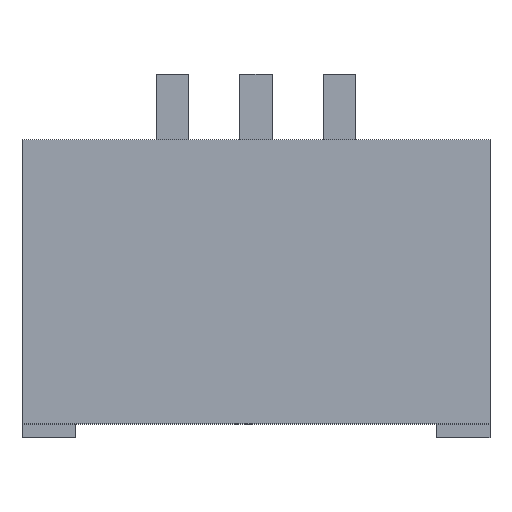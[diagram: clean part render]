
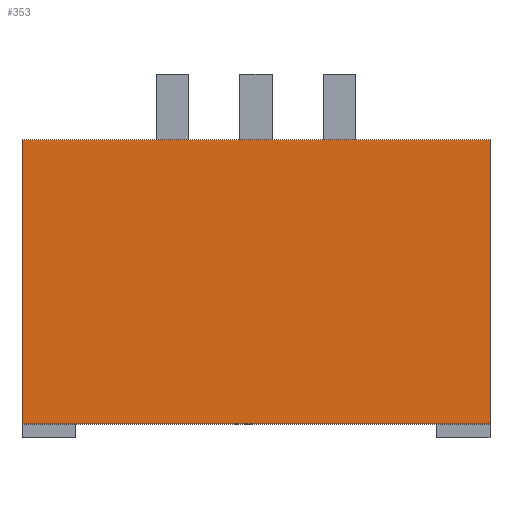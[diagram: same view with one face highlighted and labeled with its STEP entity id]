
A CAD part, top view. The second image highlights one B-rep face of the part: STEP entity #353.
In plain terms, the highlighted planar face has unit normal (0, 0, 1).
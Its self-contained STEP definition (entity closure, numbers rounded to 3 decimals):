
#39 = VERTEX_POINT('',#40);
#40 = CARTESIAN_POINT('',(-3.5,2.025,4.2));
#47 = PLANE('',#48);
#48 = AXIS2_PLACEMENT_3D('',#49,#50,#51);
#49 = CARTESIAN_POINT('',(-3.5,2.025,0.));
#50 = DIRECTION('',(0.,1.,0.));
#51 = DIRECTION('',(1.,0.,0.));
#59 = PLANE('',#60);
#60 = AXIS2_PLACEMENT_3D('',#61,#62,#63);
#61 = CARTESIAN_POINT('',(-3.5,-2.225,0.));
#62 = DIRECTION('',(-1.,0.,0.));
#63 = DIRECTION('',(0.,1.,0.));
#71 = EDGE_CURVE('',#39,#72,#74,.T.);
#72 = VERTEX_POINT('',#73);
#73 = CARTESIAN_POINT('',(3.5,2.025,4.2));
#74 = SURFACE_CURVE('',#75,(#79,#86),.PCURVE_S1.);
#75 = LINE('',#76,#77);
#76 = CARTESIAN_POINT('',(-3.5,2.025,4.2));
#77 = VECTOR('',#78,1.);
#78 = DIRECTION('',(1.,0.,0.));
#79 = PCURVE('',#47,#80);
#80 = DEFINITIONAL_REPRESENTATION('',(#81),#85);
#81 = LINE('',#82,#83);
#82 = CARTESIAN_POINT('',(0.,-4.2));
#83 = VECTOR('',#84,1.);
#84 = DIRECTION('',(1.,0.));
#85 = ( GEOMETRIC_REPRESENTATION_CONTEXT(2) 
PARAMETRIC_REPRESENTATION_CONTEXT() REPRESENTATION_CONTEXT('2D SPACE',''
  ) );
#86 = PCURVE('',#87,#92);
#87 = PLANE('',#88);
#88 = AXIS2_PLACEMENT_3D('',#89,#90,#91);
#89 = CARTESIAN_POINT('',(0.,-0.1,4.2));
#90 = DIRECTION('',(-0.,-0.,-1.));
#91 = DIRECTION('',(-1.,0.,0.));
#92 = DEFINITIONAL_REPRESENTATION('',(#93),#97);
#93 = LINE('',#94,#95);
#94 = CARTESIAN_POINT('',(3.5,2.125));
#95 = VECTOR('',#96,1.);
#96 = DIRECTION('',(-1.,0.));
#97 = ( GEOMETRIC_REPRESENTATION_CONTEXT(2) 
PARAMETRIC_REPRESENTATION_CONTEXT() REPRESENTATION_CONTEXT('2D SPACE',''
  ) );
#115 = PLANE('',#116);
#116 = AXIS2_PLACEMENT_3D('',#117,#118,#119);
#117 = CARTESIAN_POINT('',(3.5,2.025,0.));
#118 = DIRECTION('',(1.,0.,-0.));
#119 = DIRECTION('',(0.,-1.,0.));
#157 = EDGE_CURVE('',#72,#158,#160,.T.);
#158 = VERTEX_POINT('',#159);
#159 = CARTESIAN_POINT('',(3.5,-2.225,4.2));
#160 = SURFACE_CURVE('',#161,(#165,#172),.PCURVE_S1.);
#161 = LINE('',#162,#163);
#162 = CARTESIAN_POINT('',(3.5,2.025,4.2));
#163 = VECTOR('',#164,1.);
#164 = DIRECTION('',(0.,-1.,0.));
#165 = PCURVE('',#115,#166);
#166 = DEFINITIONAL_REPRESENTATION('',(#167),#171);
#167 = LINE('',#168,#169);
#168 = CARTESIAN_POINT('',(0.,-4.2));
#169 = VECTOR('',#170,1.);
#170 = DIRECTION('',(1.,0.));
#171 = ( GEOMETRIC_REPRESENTATION_CONTEXT(2) 
PARAMETRIC_REPRESENTATION_CONTEXT() REPRESENTATION_CONTEXT('2D SPACE',''
  ) );
#172 = PCURVE('',#87,#173);
#173 = DEFINITIONAL_REPRESENTATION('',(#174),#178);
#174 = LINE('',#175,#176);
#175 = CARTESIAN_POINT('',(-3.5,2.125));
#176 = VECTOR('',#177,1.);
#177 = DIRECTION('',(0.,-1.));
#178 = ( GEOMETRIC_REPRESENTATION_CONTEXT(2) 
PARAMETRIC_REPRESENTATION_CONTEXT() REPRESENTATION_CONTEXT('2D SPACE',''
  ) );
#196 = PLANE('',#197);
#197 = AXIS2_PLACEMENT_3D('',#198,#199,#200);
#198 = CARTESIAN_POINT('',(3.5,-2.225,0.));
#199 = DIRECTION('',(0.,-1.,0.));
#200 = DIRECTION('',(-1.,0.,0.));
#233 = EDGE_CURVE('',#158,#234,#236,.T.);
#234 = VERTEX_POINT('',#235);
#235 = CARTESIAN_POINT('',(-3.5,-2.225,4.2));
#236 = SURFACE_CURVE('',#237,(#241,#248),.PCURVE_S1.);
#237 = LINE('',#238,#239);
#238 = CARTESIAN_POINT('',(3.5,-2.225,4.2));
#239 = VECTOR('',#240,1.);
#240 = DIRECTION('',(-1.,0.,0.));
#241 = PCURVE('',#196,#242);
#242 = DEFINITIONAL_REPRESENTATION('',(#243),#247);
#243 = LINE('',#244,#245);
#244 = CARTESIAN_POINT('',(0.,-4.2));
#245 = VECTOR('',#246,1.);
#246 = DIRECTION('',(1.,0.));
#247 = ( GEOMETRIC_REPRESENTATION_CONTEXT(2) 
PARAMETRIC_REPRESENTATION_CONTEXT() REPRESENTATION_CONTEXT('2D SPACE',''
  ) );
#248 = PCURVE('',#87,#249);
#249 = DEFINITIONAL_REPRESENTATION('',(#250),#254);
#250 = LINE('',#251,#252);
#251 = CARTESIAN_POINT('',(-3.5,-2.125));
#252 = VECTOR('',#253,1.);
#253 = DIRECTION('',(1.,0.));
#254 = ( GEOMETRIC_REPRESENTATION_CONTEXT(2) 
PARAMETRIC_REPRESENTATION_CONTEXT() REPRESENTATION_CONTEXT('2D SPACE',''
  ) );
#304 = EDGE_CURVE('',#234,#39,#305,.T.);
#305 = SURFACE_CURVE('',#306,(#310,#317),.PCURVE_S1.);
#306 = LINE('',#307,#308);
#307 = CARTESIAN_POINT('',(-3.5,-2.225,4.2));
#308 = VECTOR('',#309,1.);
#309 = DIRECTION('',(0.,1.,0.));
#310 = PCURVE('',#59,#311);
#311 = DEFINITIONAL_REPRESENTATION('',(#312),#316);
#312 = LINE('',#313,#314);
#313 = CARTESIAN_POINT('',(0.,-4.2));
#314 = VECTOR('',#315,1.);
#315 = DIRECTION('',(1.,0.));
#316 = ( GEOMETRIC_REPRESENTATION_CONTEXT(2) 
PARAMETRIC_REPRESENTATION_CONTEXT() REPRESENTATION_CONTEXT('2D SPACE',''
  ) );
#317 = PCURVE('',#87,#318);
#318 = DEFINITIONAL_REPRESENTATION('',(#319),#323);
#319 = LINE('',#320,#321);
#320 = CARTESIAN_POINT('',(3.5,-2.125));
#321 = VECTOR('',#322,1.);
#322 = DIRECTION('',(0.,1.));
#323 = ( GEOMETRIC_REPRESENTATION_CONTEXT(2) 
PARAMETRIC_REPRESENTATION_CONTEXT() REPRESENTATION_CONTEXT('2D SPACE',''
  ) );
#353 = ADVANCED_FACE('',(#354),#87,.F.);
#354 = FACE_BOUND('',#355,.F.);
#355 = EDGE_LOOP('',(#356,#357,#358,#359));
#356 = ORIENTED_EDGE('',*,*,#71,.T.);
#357 = ORIENTED_EDGE('',*,*,#157,.T.);
#358 = ORIENTED_EDGE('',*,*,#233,.T.);
#359 = ORIENTED_EDGE('',*,*,#304,.T.);
